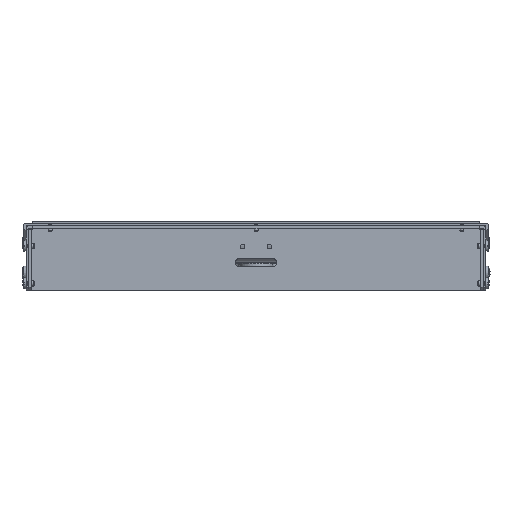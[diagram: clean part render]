
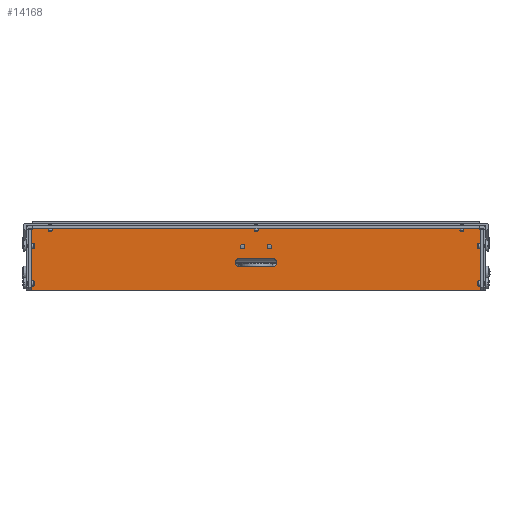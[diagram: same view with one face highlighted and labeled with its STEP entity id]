
A CAD part, left-side view. The second image highlights one B-rep face of the part: STEP entity #14168.
In plain terms, the highlighted planar face has unit normal (-1, 0, 0) as drawn and (0, 0, 1) by its records, which use the part's own axes.
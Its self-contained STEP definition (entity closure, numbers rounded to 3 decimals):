
#1064=FACE_BOUND('',#2826,.T.);
#1065=FACE_BOUND('',#2827,.T.);
#1066=FACE_BOUND('',#2828,.T.);
#1795=FACE_OUTER_BOUND('',#2825,.T.);
#2825=EDGE_LOOP('',(#12959,#12960,#12961,#12962,#12963,#12964,#12965,#12966));
#2826=EDGE_LOOP('',(#12967,#12968,#12969,#12970));
#2827=EDGE_LOOP('',(#12971));
#2828=EDGE_LOOP('',(#12972));
#4126=LINE('',#23668,#5472);
#4134=LINE('',#23687,#5480);
#4141=LINE('',#23702,#5487);
#4145=LINE('',#23711,#5491);
#4149=LINE('',#23723,#5495);
#4157=LINE('',#23753,#5503);
#4162=LINE('',#23764,#5508);
#4171=LINE('',#23787,#5517);
#4174=LINE('',#23794,#5520);
#4178=LINE('',#23801,#5524);
#5472=VECTOR('',#19193,10.);
#5480=VECTOR('',#19207,10.);
#5487=VECTOR('',#19220,10.);
#5491=VECTOR('',#19226,10.);
#5495=VECTOR('',#19238,10.);
#5503=VECTOR('',#19272,10.);
#5508=VECTOR('',#19283,10.);
#5517=VECTOR('',#19304,10.);
#5520=VECTOR('',#19311,10.);
#5524=VECTOR('',#19319,10.);
#5981=CIRCLE('',#15527,3.);
#5983=CIRCLE('',#15531,3.);
#5985=CIRCLE('',#15534,1.621);
#5987=CIRCLE('',#15537,1.621);
#7278=VERTEX_POINT('',#23665);
#7279=VERTEX_POINT('',#23667);
#7287=VERTEX_POINT('',#23685);
#7292=VERTEX_POINT('',#23701);
#7295=VERTEX_POINT('',#23708);
#7296=VERTEX_POINT('',#23710);
#7298=VERTEX_POINT('',#23716);
#7300=VERTEX_POINT('',#23722);
#7302=VERTEX_POINT('',#23731);
#7304=VERTEX_POINT('',#23736);
#7309=VERTEX_POINT('',#23751);
#7312=VERTEX_POINT('',#23763);
#7320=VERTEX_POINT('',#23786);
#7322=VERTEX_POINT('',#23793);
#9146=EDGE_CURVE('',#7279,#7278,#4126,.T.);
#9156=EDGE_CURVE('',#7278,#7287,#4134,.T.);
#9163=EDGE_CURVE('',#7292,#7279,#4141,.T.);
#9167=EDGE_CURVE('',#7296,#7295,#4145,.T.);
#9170=EDGE_CURVE('',#7298,#7296,#5981,.T.);
#9173=EDGE_CURVE('',#7300,#7298,#4149,.T.);
#9176=EDGE_CURVE('',#7295,#7300,#5983,.T.);
#9178=EDGE_CURVE('',#7302,#7302,#5985,.T.);
#9180=EDGE_CURVE('',#7304,#7304,#5987,.T.);
#9188=EDGE_CURVE('',#7287,#7309,#4157,.T.);
#9194=EDGE_CURVE('',#7312,#7292,#4162,.T.);
#9205=EDGE_CURVE('',#7320,#7312,#4171,.T.);
#9208=EDGE_CURVE('',#7322,#7320,#4174,.T.);
#9212=EDGE_CURVE('',#7309,#7322,#4178,.T.);
#12959=ORIENTED_EDGE('',*,*,#9163,.T.);
#12960=ORIENTED_EDGE('',*,*,#9146,.T.);
#12961=ORIENTED_EDGE('',*,*,#9156,.T.);
#12962=ORIENTED_EDGE('',*,*,#9188,.T.);
#12963=ORIENTED_EDGE('',*,*,#9212,.T.);
#12964=ORIENTED_EDGE('',*,*,#9208,.T.);
#12965=ORIENTED_EDGE('',*,*,#9205,.T.);
#12966=ORIENTED_EDGE('',*,*,#9194,.T.);
#12967=ORIENTED_EDGE('',*,*,#9173,.T.);
#12968=ORIENTED_EDGE('',*,*,#9170,.T.);
#12969=ORIENTED_EDGE('',*,*,#9167,.T.);
#12970=ORIENTED_EDGE('',*,*,#9176,.T.);
#12971=ORIENTED_EDGE('',*,*,#9178,.T.);
#12972=ORIENTED_EDGE('',*,*,#9180,.T.);
#13440=PLANE('',#15554);
#14168=ADVANCED_FACE('',(#1795,#1064,#1065,#1066),#13440,.T.);
#15527=AXIS2_PLACEMENT_3D('',#23717,#19232,#19233);
#15531=AXIS2_PLACEMENT_3D('',#23727,#19244,#19245);
#15534=AXIS2_PLACEMENT_3D('',#23732,#19250,#19251);
#15537=AXIS2_PLACEMENT_3D('',#23737,#19256,#19257);
#15554=AXIS2_PLACEMENT_3D('',#23800,#19317,#19318);
#19193=DIRECTION('',(0.,1.,0.));
#19207=DIRECTION('',(-1.,0.,0.));
#19220=DIRECTION('',(1.,0.,0.));
#19226=DIRECTION('',(0.,1.,0.));
#19232=DIRECTION('center_axis',(0.,0.,-1.));
#19233=DIRECTION('ref_axis',(-1.,0.,0.));
#19238=DIRECTION('',(0.,-1.,0.));
#19244=DIRECTION('center_axis',(0.,0.,-1.));
#19245=DIRECTION('ref_axis',(1.,0.,0.));
#19250=DIRECTION('center_axis',(0.,0.,-1.));
#19251=DIRECTION('ref_axis',(1.,0.,0.));
#19256=DIRECTION('center_axis',(0.,0.,-1.));
#19257=DIRECTION('ref_axis',(1.,0.,0.));
#19272=DIRECTION('',(0.,-1.,0.));
#19283=DIRECTION('',(0.,-1.,0.));
#19304=DIRECTION('',(1.,0.,0.));
#19311=DIRECTION('',(0.,-1.,0.));
#19317=DIRECTION('center_axis',(0.,0.,1.));
#19318=DIRECTION('ref_axis',(1.,0.,0.));
#19319=DIRECTION('',(-1.,0.,0.));
#23665=CARTESIAN_POINT('',(41.,168.,2.));
#23667=CARTESIAN_POINT('',(41.,-168.,2.));
#23668=CARTESIAN_POINT('',(41.,-170.,2.));
#23685=CARTESIAN_POINT('',(-4.,168.,2.));
#23687=CARTESIAN_POINT('',(6.512,168.,2.));
#23701=CARTESIAN_POINT('',(-4.,-168.,2.));
#23702=CARTESIAN_POINT('',(29.012,-168.,2.));
#23708=CARTESIAN_POINT('',(17.5,12.5,2.));
#23710=CARTESIAN_POINT('',(17.5,-12.5,2.));
#23711=CARTESIAN_POINT('',(17.5,-6.25,2.));
#23716=CARTESIAN_POINT('',(23.5,-12.5,2.));
#23717=CARTESIAN_POINT('Origin',(20.5,-12.5,2.));
#23722=CARTESIAN_POINT('',(23.5,12.5,2.));
#23723=CARTESIAN_POINT('',(23.5,6.25,2.));
#23727=CARTESIAN_POINT('Origin',(20.5,12.5,2.));
#23731=CARTESIAN_POINT('',(10.121,-10.,2.));
#23732=CARTESIAN_POINT('Origin',(8.5,-10.,2.));
#23736=CARTESIAN_POINT('',(10.121,10.,2.));
#23737=CARTESIAN_POINT('Origin',(8.5,10.,2.));
#23751=CARTESIAN_POINT('',(-4.,167.,2.));
#23753=CARTESIAN_POINT('',(-4.,170.,2.));
#23763=CARTESIAN_POINT('',(-4.,-167.,2.));
#23764=CARTESIAN_POINT('',(-4.,-167.,2.));
#23786=CARTESIAN_POINT('',(-5.,-167.,2.));
#23787=CARTESIAN_POINT('',(-7.,-167.,2.));
#23793=CARTESIAN_POINT('',(-5.,167.,2.));
#23794=CARTESIAN_POINT('',(-5.,-83.5,2.));
#23800=CARTESIAN_POINT('Origin',(17.023,0.,
2.));
#23801=CARTESIAN_POINT('',(-4.,167.,2.));
